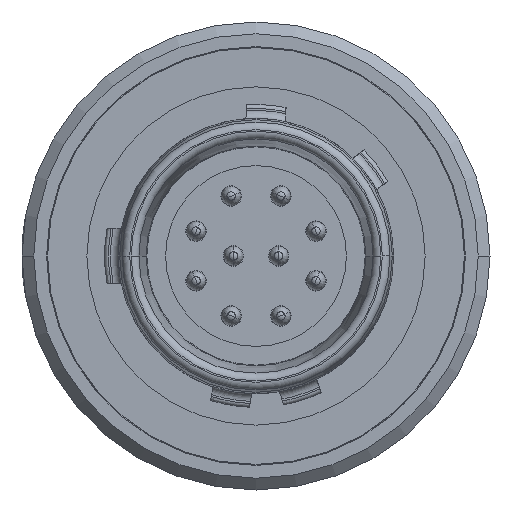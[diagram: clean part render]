
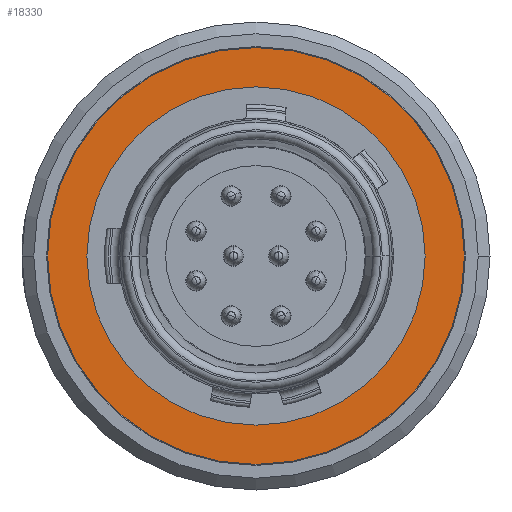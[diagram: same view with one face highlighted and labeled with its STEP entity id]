
A CAD part, left-side view. The second image highlights one B-rep face of the part: STEP entity #18330.
In plain terms, the highlighted planar face has unit normal (-1, 0, 0).
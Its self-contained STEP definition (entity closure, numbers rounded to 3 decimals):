
#1429=CARTESIAN_POINT('',(-7.51,0.,0.));
#1430=DIRECTION('',(1.,0.,0.));
#1431=DIRECTION('',(0.,-1.,0.));
#1432=AXIS2_PLACEMENT_3D('',#1429,#1430,#1431);
#1434=CARTESIAN_POINT('',(-7.51,0.,0.));
#1435=DIRECTION('',(-1.,0.,0.));
#1436=DIRECTION('',(0.,-1.,0.));
#1437=AXIS2_PLACEMENT_3D('',#1434,#1435,#1436);
#1553=CARTESIAN_POINT('',(-7.51,0.,0.));
#1554=DIRECTION('',(-1.,0.,0.));
#1555=DIRECTION('',(0.,-1.,0.));
#1556=AXIS2_PLACEMENT_3D('',#1553,#1554,#1555);
#2108=CARTESIAN_POINT('',(-7.51,0.,0.));
#2109=DIRECTION('',(1.,0.,0.));
#2110=DIRECTION('',(0.,-1.,0.));
#2111=AXIS2_PLACEMENT_3D('',#2108,#2109,#2110);
#16966=CARTESIAN_POINT('',(-7.51,-4.3,0.));
#16967=CARTESIAN_POINT('',(-7.51,4.3,0.));
#16968=VERTEX_POINT('',#16966);
#16969=VERTEX_POINT('',#16967);
#16970=CARTESIAN_POINT('',(-7.51,-5.3,0.));
#16971=CARTESIAN_POINT('',(-7.51,5.3,0.));
#16972=VERTEX_POINT('',#16970);
#16973=VERTEX_POINT('',#16971);
#18315=CARTESIAN_POINT('',(-7.51,0.,0.));
#18316=DIRECTION('',(1.,0.,0.));
#18317=DIRECTION('',(0.,-1.,0.));
#18318=AXIS2_PLACEMENT_3D('',#18315,#18316,#18317);
#18319=PLANE('',#18318);
#18321=ORIENTED_EDGE('',*,*,#18320,.F.);
#18323=ORIENTED_EDGE('',*,*,#18322,.T.);
#18324=EDGE_LOOP('',(#18321,#18323));
#18325=FACE_OUTER_BOUND('',#18324,.F.);
#18326=ORIENTED_EDGE('',*,*,#18281,.F.);
#18327=ORIENTED_EDGE('',*,*,#18302,.T.);
#18328=EDGE_LOOP('',(#18326,#18327));
#18329=FACE_BOUND('',#18328,.F.);
#1433=CIRCLE('',#1432,4.3);
#1438=CIRCLE('',#1437,4.3);
#1557=CIRCLE('',#1556,5.3);
#2112=CIRCLE('',#2111,5.3);
#18281=EDGE_CURVE('',#16968,#16969,#1433,.T.);
#18302=EDGE_CURVE('',#16968,#16969,#1438,.T.);
#18320=EDGE_CURVE('',#16972,#16973,#1557,.T.);
#18322=EDGE_CURVE('',#16972,#16973,#2112,.T.);
#18330=ADVANCED_FACE('',(#18325,#18329),#18319,.F.);
